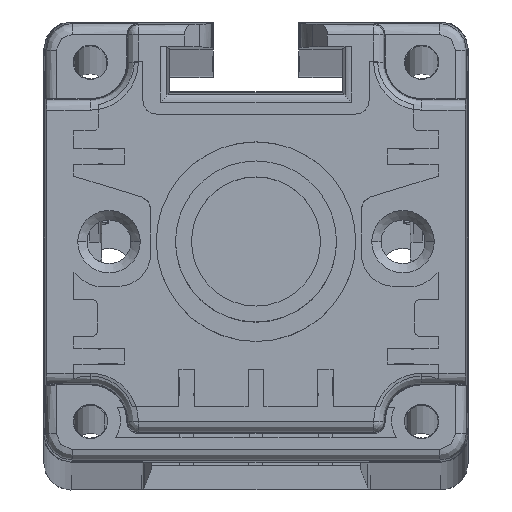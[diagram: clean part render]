
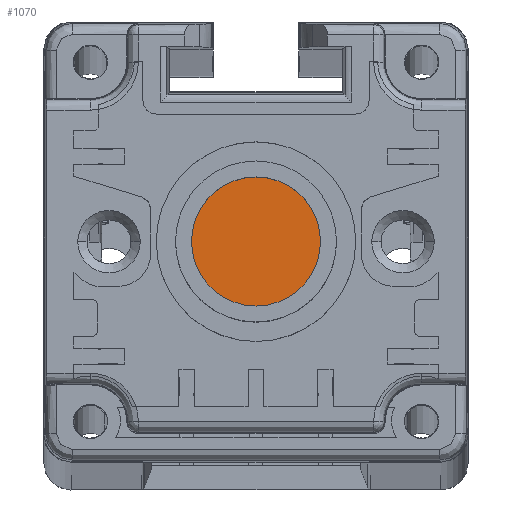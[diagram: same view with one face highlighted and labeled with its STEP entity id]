
A CAD part, top view. The second image highlights one B-rep face of the part: STEP entity #1070.
In plain terms, the highlighted planar face has unit normal (0, 0, 1).
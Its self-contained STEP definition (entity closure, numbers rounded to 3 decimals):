
#1070=ADVANCED_FACE('',(#2034),#1539,.T.);
#1539=PLANE('',#13341);
#2034=FACE_OUTER_BOUND('',#2672,.T.);
#2672=EDGE_LOOP('',(#7402,#7403));
#7402=ORIENTED_EDGE('',*,*,#11440,.T.);
#7403=ORIENTED_EDGE('',*,*,#11438,.T.);
#9851=VERTEX_POINT('',#19932);
#9852=VERTEX_POINT('',#19934);
#11438=EDGE_CURVE('',#9852,#9851,#12517,.T.);
#11440=EDGE_CURVE('',#9851,#9852,#12518,.T.);
#12517=CIRCLE('',#13337,4.85);
#12518=CIRCLE('',#13339,4.85);
#13337=AXIS2_PLACEMENT_3D('',#19933,#15875,#15876);
#13339=AXIS2_PLACEMENT_3D('',#19937,#15880,#15881);
#13341=AXIS2_PLACEMENT_3D('',#19939,#15884,#15885);
#15875=DIRECTION('',(0.,0.,1.));
#15876=DIRECTION('',(1.,0.,0.));
#15880=DIRECTION('',(0.,0.,1.));
#15881=DIRECTION('',(-1.,0.,0.));
#15884=DIRECTION('',(0.,0.,1.));
#15885=DIRECTION('',(-1.,0.,0.));
#19932=CARTESIAN_POINT('',(20.025,26.865,16.));
#19933=CARTESIAN_POINT('',(24.875,26.865,16.));
#19934=CARTESIAN_POINT('',(29.725,26.865,16.));
#19937=CARTESIAN_POINT('',(24.875,26.865,16.));
#19939=CARTESIAN_POINT('',(0.,0.,16.));
